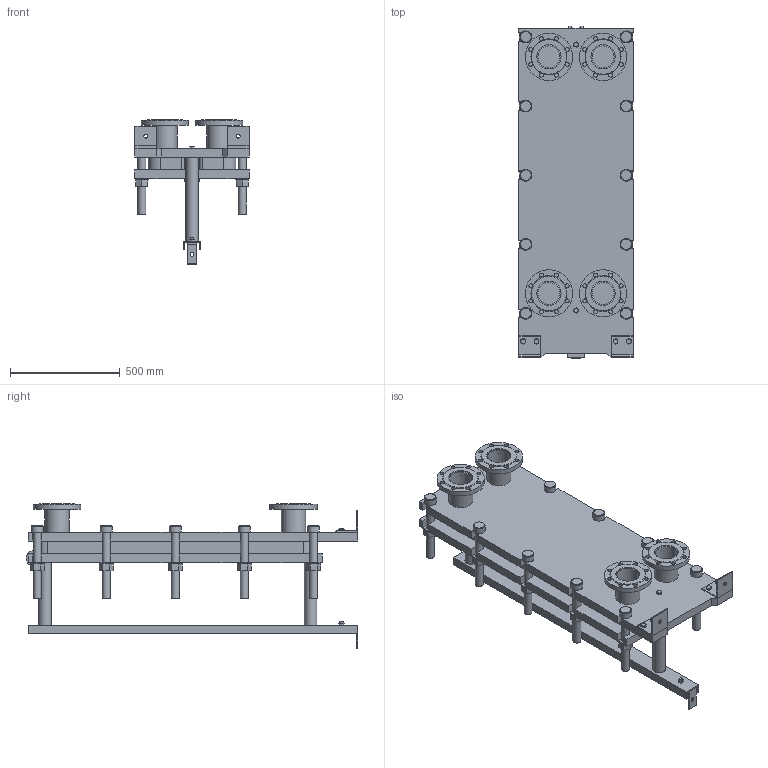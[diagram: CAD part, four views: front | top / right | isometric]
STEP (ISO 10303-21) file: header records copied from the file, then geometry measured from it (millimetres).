
FILE_DESCRIPTION(/* description */ (''),/* implementation_level */ '2;1');
FILE_NAME(/* name */ 'C:\Users\zhuro\Desktop\ENCO\TO\ЭН-04\ЭН-0,5-04-17-1.stp',/* time_stamp */ '2022-06-06T10:45:40+03:00',/* author */ ('zhuro'),/* organization */ (''),/* preprocessor_version */ 'ST-DEVELOPER v18.1',/* originating_system */ 'Autodesk Inventor 2022',/* authorisation */ '');
FILE_SCHEMA (('AUTOMOTIVE_DESIGN { 1 0 10303 214 3 1 1 }'));
Length unit declared in the file: millimetre
Products named in the file (1): ЭН-0,5-04-17-1
Bounding box: 520 x 1510 x 658.5 mm (x, y, z)
Volume: 96048520 mm3; surface area: 6530084.1 mm2
Topology: 45 solids, 45 shells, 668 faces, 1611 edges, 1048 vertices
Faces by surface type: plane 457, cylinder 166, cone 39, torus 6
Full cylindrical faces by diameter (mm): 8 x4, 10 x2, 16 x8, 18 x35, 36 x25, 40 x2, 42 x1, 45 x4, 54 x10, 57 x2, 60 x10, 68 x2, 100 x4, 110 x8, 215 x4
Entity records: 23607 total; most frequent: CARTESIAN_POINT 7348, DIRECTION 3371, ORIENTED_EDGE 3142, EDGE_CURVE 1571, AXIS2_PLACEMENT_3D 1199, VERTEX_POINT 1044, LINE 973, VECTOR 973
